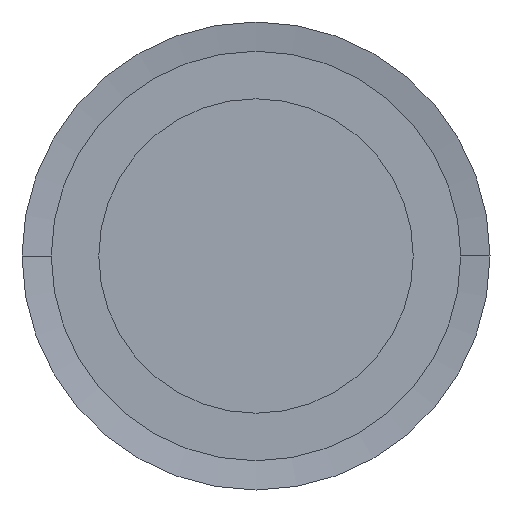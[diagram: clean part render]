
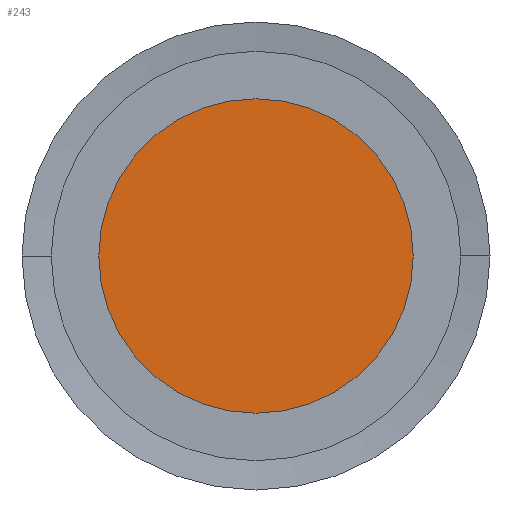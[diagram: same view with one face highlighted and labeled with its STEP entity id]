
A CAD part, left-side view. The second image highlights one B-rep face of the part: STEP entity #243.
In plain terms, the highlighted planar face has unit normal (-1, 0, 0).
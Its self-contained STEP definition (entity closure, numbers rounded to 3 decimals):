
#243 = ADVANCED_FACE( '', ( #586 ), #587, .T. );
#586 = FACE_OUTER_BOUND( '', #929, .T. );
#587 = PLANE( '', #930 );
#929 = EDGE_LOOP( '', ( #2389, #2390 ) );
#930 = AXIS2_PLACEMENT_3D( '', #2391, #2392, #2393 );
#2389 = ORIENTED_EDGE( '', *, *, #2397, .T. );
#2390 = ORIENTED_EDGE( '', *, *, #2871, .T. );
#2391 = CARTESIAN_POINT( '', ( 0., 5.375, 0. ) );
#2392 = DIRECTION( '', ( -1., 0., 0. ) );
#2393 = DIRECTION( '', ( 0., 1., 0. ) );
#2397 = EDGE_CURVE( '', #2873, #2877, #2879, .T. );
#2871 = EDGE_CURVE( '', #2877, #2873, #3665, .T. );
#2873 = VERTEX_POINT( '', #3667 );
#2877 = VERTEX_POINT( '', #3672 );
#2879 = CIRCLE( '', #3675, 10.75 );
#3665 = CIRCLE( '', #4781, 10.75 );
#3667 = CARTESIAN_POINT( '', ( 0., 10.75, 0. ) );
#3672 = CARTESIAN_POINT( '', ( 0., -10.75, 0. ) );
#3675 = AXIS2_PLACEMENT_3D( '', #4787, #4788, #4789 );
#4781 = AXIS2_PLACEMENT_3D( '', #5569, #5570, #5571 );
#4787 = CARTESIAN_POINT( '', ( 0., 0., 0. ) );
#4788 = DIRECTION( '', ( -1., 0., 0. ) );
#4789 = DIRECTION( '', ( 0., 1., 0. ) );
#5569 = CARTESIAN_POINT( '', ( 0., 0., 0. ) );
#5570 = DIRECTION( '', ( -1., 0., 0. ) );
#5571 = DIRECTION( '', ( 0., 1., 0. ) );
